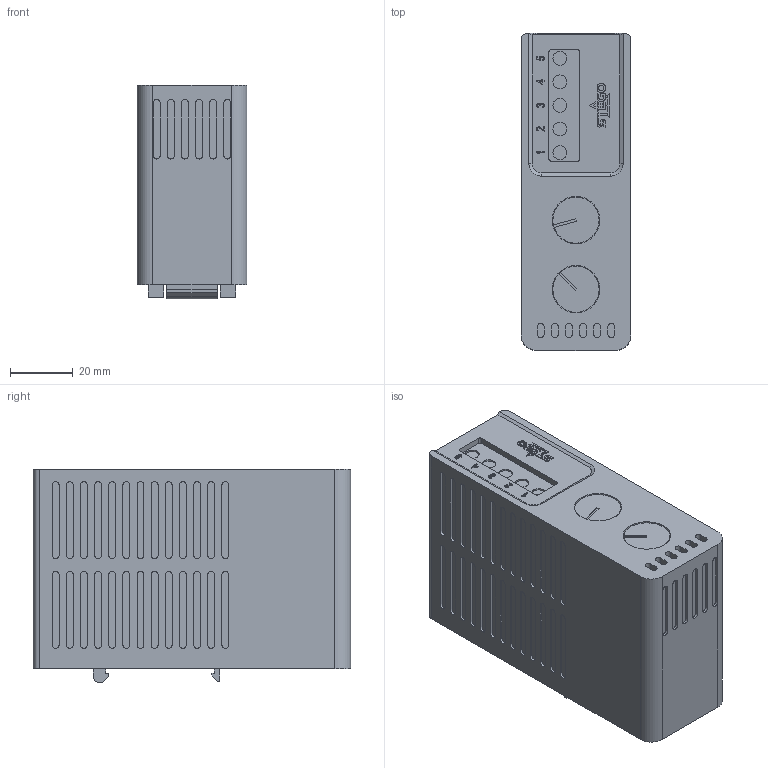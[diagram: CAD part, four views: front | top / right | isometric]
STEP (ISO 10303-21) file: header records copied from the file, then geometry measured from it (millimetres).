
FILE_DESCRIPTION (( 'STEP AP214' ), '1' );
FILE_NAME ('01260.0-01_EPLAN.STEP', '2025-07-03T13:27:47', ( '' ), ( '' ), 'SwSTEP 2.0', 'SolidWorks 2025', '' );
FILE_SCHEMA (( 'AUTOMOTIVE_DESIGN' ));
Length unit declared in the file: millimetre
Products named in the file (1): 01260.0-01_EPLAN
Bounding box: 35 x 101 x 68 mm (x, y, z)
Volume: 219040.4 mm3; surface area: 27779.2 mm2
Topology: 1 solids, 1 shells, 713 faces, 1819 edges, 1212 vertices
Faces by surface type: plane 405, cylinder 253, bspline 51, cone 4
Entity records: 23456 total; most frequent: CARTESIAN_POINT 5940, ORIENTED_EDGE 3638, DIRECTION 3561, EDGE_CURVE 1819, VERTEX_POINT 1212, VECTOR 1199, LINE 1199, AXIS2_PLACEMENT_3D 1181
